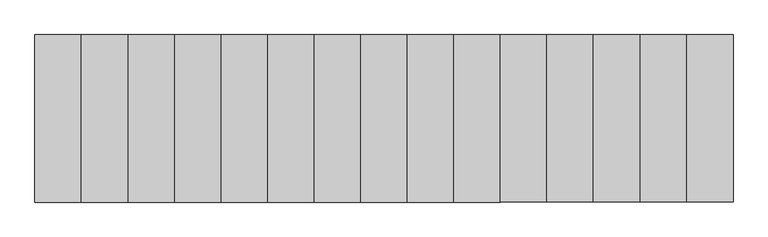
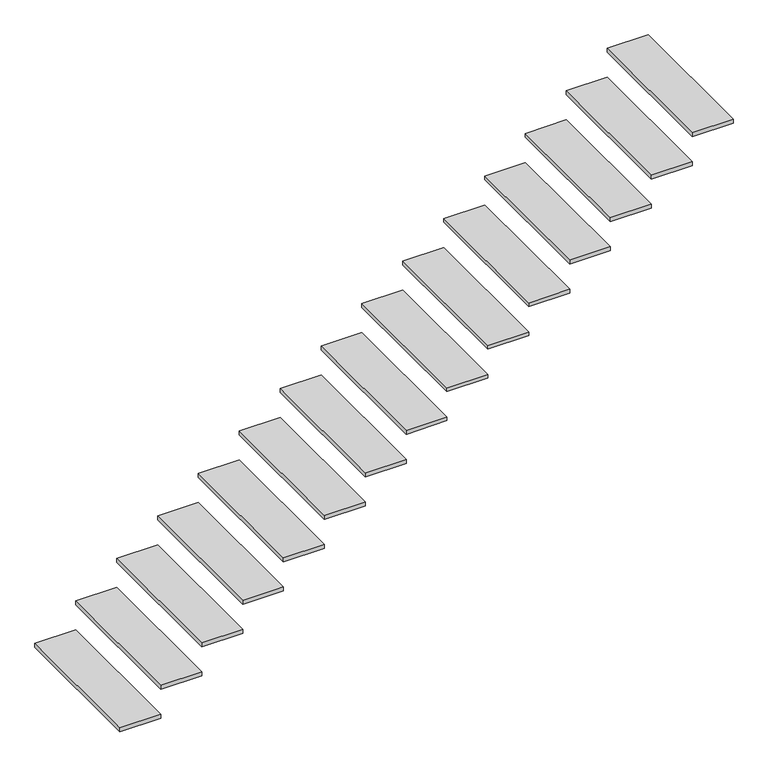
"""IFC4 building model written with IfcOpenShell, lengths in millimetres: stair flight geometry."""

from ifc_helpers import new_model, si_unit, frame, origin, place, context, project, spatial, polyline, outline, extrude, source, transform, mapped, element, save


def stair_flight_c3952520(model_context):
    return source(origin(), model_context, "Body", "SweptSolid", [
        extrude(outline(polyline([(-26976.8481446, -16465.6871906), (-26976.8481446, -17380.0871906), (-27230.8481446, -17380.0871906), (-27230.8481446, -16465.6871906), (-26976.8481446, -16465.6871906)])), frame((0.0, 0.0, 165.1), z_axis=(0.0, 0.0, 1.0), x_axis=(1.0, 0.0, 0.0)), (0.0, 0.0, 1.0), 25.4),
        extrude(outline(polyline([(-26722.8481446, -16465.6871906), (-26722.8481446, -17380.0871906), (-26976.8481446, -17380.0871906), (-26976.8481446, -16465.6871906), (-26722.8481446, -16465.6871906)])), frame((0.0, 0.0, 355.6), z_axis=(0.0, 0.0, 1.0), x_axis=(1.0, 0.0, 0.0)), (0.0, 0.0, 1.0), 25.4),
        extrude(outline(polyline([(-26468.8481446, -16465.6871906), (-26468.8481446, -17380.0871906), (-26722.8481446, -17380.0871906), (-26722.8481446, -16465.6871906), (-26468.8481446, -16465.6871906)])), frame((0.0, 0.0, 546.1), z_axis=(0.0, 0.0, 1.0), x_axis=(1.0, 0.0, 0.0)), (0.0, 0.0, 1.0), 25.4),
        extrude(outline(polyline([(-26214.8481446, -16465.6871906), (-26214.8481446, -17380.0871906), (-26468.8481446, -17380.0871906), (-26468.8481446, -16465.6871906), (-26214.8481446, -16465.6871906)])), frame((0.0, 0.0, 736.6), z_axis=(0.0, 0.0, 1.0), x_axis=(1.0, 0.0, 0.0)), (0.0, 0.0, 1.0), 25.4),
        extrude(outline(polyline([(-25960.8481446, -16465.6871906), (-25960.8481446, -17380.0871906), (-26214.8481446, -17380.0871906), (-26214.8481446, -16465.6871906), (-25960.8481446, -16465.6871906)])), frame((0.0, 0.0, 927.1), z_axis=(0.0, 0.0, 1.0), x_axis=(1.0, 0.0, 0.0)), (0.0, 0.0, 1.0), 25.4),
        extrude(outline(polyline([(-25706.8481446, -16465.6871906), (-25706.8481446, -17380.0871906), (-25960.8481446, -17380.0871906), (-25960.8481446, -16465.6871906), (-25706.8481446, -16465.6871906)])), frame((0.0, 0.0, 1117.6), z_axis=(0.0, 0.0, 1.0), x_axis=(1.0, 0.0, 0.0)), (0.0, 0.0, 1.0), 25.4),
        extrude(outline(polyline([(-25452.8481446, -16465.6871906), (-25452.8481446, -17380.0871906), (-25706.8481446, -17380.0871906), (-25706.8481446, -16465.6871906), (-25452.8481446, -16465.6871906)])), frame((0.0, 0.0, 1308.1), z_axis=(0.0, 0.0, 1.0), x_axis=(1.0, 0.0, 0.0)), (0.0, 0.0, 1.0), 25.4),
        extrude(outline(polyline([(-25198.8481446, -16465.6871906), (-25198.8481446, -17380.0871906), (-25452.8481446, -17380.0871906), (-25452.8481446, -16465.6871906), (-25198.8481446, -16465.6871906)])), frame((0.0, 0.0, 1498.6), z_axis=(0.0, 0.0, 1.0), x_axis=(1.0, 0.0, 0.0)), (0.0, 0.0, 1.0), 25.4),
        extrude(outline(polyline([(-24944.8481446, -16465.6871906), (-24944.8481446, -17380.0871906), (-25198.8481446, -17380.0871906), (-25198.8481446, -16465.6871906), (-24944.8481446, -16465.6871906)])), frame((0.0, 0.0, 1689.1), z_axis=(0.0, 0.0, 1.0), x_axis=(1.0, 0.0, 0.0)), (0.0, 0.0, 1.0), 25.4),
        extrude(outline(polyline([(-24690.8481446, -16465.6871906), (-24690.8481446, -17380.0871906), (-24944.8481446, -17380.0871906), (-24944.8481446, -16465.6871906), (-24690.8481446, -16465.6871906)])), frame((0.0, 0.0, 1879.6), z_axis=(0.0, 0.0, 1.0), x_axis=(1.0, 0.0, 0.0)), (0.0, 0.0, 1.0), 25.4),
        extrude(outline(polyline([(-24436.8481446, -16465.6871906), (-24436.8481446, -17380.0871906), (-24690.8481446, -17380.0871906), (-24690.8481446, -16465.6871906), (-24436.8481446, -16465.6871906)])), frame((0.0, 0.0, 2070.1), z_axis=(0.0, 0.0, 1.0), x_axis=(1.0, 0.0, 0.0)), (0.0, 0.0, 1.0), 25.4),
        extrude(outline(polyline([(-24182.8481446, -16465.6871906), (-24182.8481446, -17380.0871906), (-24436.8481446, -17380.0871906), (-24436.8481446, -16465.6871906), (-24182.8481446, -16465.6871906)])), frame((0.0, 0.0, 2260.6), z_axis=(0.0, 0.0, 1.0), x_axis=(1.0, 0.0, 0.0)), (0.0, 0.0, 1.0), 25.4),
        extrude(outline(polyline([(-23928.8481446, -16465.6871906), (-23928.8481446, -17380.0871906), (-24182.8481446, -17380.0871906), (-24182.8481446, -16465.6871906), (-23928.8481446, -16465.6871906)])), frame((0.0, 0.0, 2451.1), z_axis=(0.0, 0.0, 1.0), x_axis=(1.0, 0.0, 0.0)), (0.0, 0.0, 1.0), 25.4),
        extrude(outline(polyline([(-23674.8481446, -16465.6871906), (-23674.8481446, -17380.0871906), (-23928.8481446, -17380.0871906), (-23928.8481446, -16465.6871906), (-23674.8481446, -16465.6871906)])), frame((0.0, 0.0, 2641.6), z_axis=(0.0, 0.0, 1.0), x_axis=(1.0, 0.0, 0.0)), (0.0, 0.0, 1.0), 25.4),
        extrude(outline(polyline([(-23420.8481446, -16465.6871906), (-23420.8481446, -17380.0871906), (-23674.8481446, -17380.0871906), (-23674.8481446, -16465.6871906), (-23420.8481446, -16465.6871906)])), frame((0.0, 0.0, 2832.1), z_axis=(0.0, 0.0, 1.0), x_axis=(1.0, 0.0, 0.0)), (0.0, 0.0, 1.0), 25.4),
    ])


if __name__ == "__main__":
    model = new_model("IFC4")
    model_context = context("Model", 3, world=origin())
    ifc_project = project(units=[si_unit("LENGTHUNIT", "METRE", prefix="MILLI")], contexts=[model_context])
    site = spatial("IfcSite", under=ifc_project)
    building = spatial("IfcBuilding", under=site)
    placement = place(None, origin())
    stair_flight_shape = stair_flight_c3952520(model_context)
    element("IfcStairFlight", 1, ObjectType="Unassigned Steps with 1\" Tread", at=placement, inside=building, context=model_context, shape_type="MappedRepresentation", body=[
        mapped(stair_flight_shape, transform((0.0, 0.0, 0.0), x_axis=(1.0, 0.0, 0.0), y_axis=(0.0, 1.0, 0.0), z_axis=(0.0, 0.0, 1.0))),
    ])
    save(model, "model.ifc")
